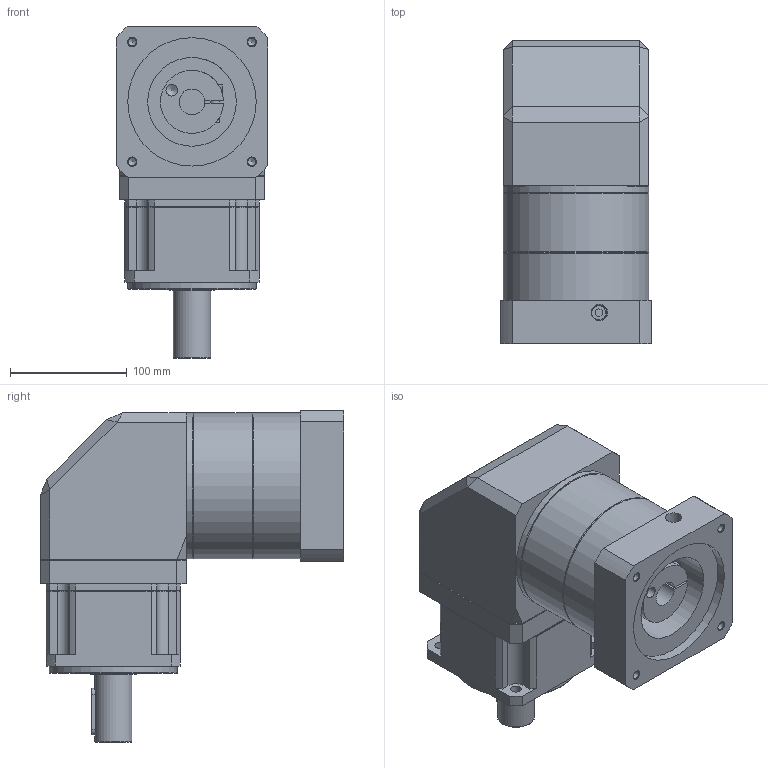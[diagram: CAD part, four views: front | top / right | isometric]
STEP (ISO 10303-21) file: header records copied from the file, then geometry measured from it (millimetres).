
FILE_DESCRIPTION(/* description */ ('STEP AP214'),/* implementation_level */ '2;1');
FILE_NAME(/* name */ 'C:\Users\m039\Desktop\精密行星标准图2019.5.20\行星外形图\B版精密行星外形图3D\GBR\GBR115-(3-100) 外形图-∅22x73.5-∅110x8-∅145xM8-□130.stp',/* time_stamp */ '2021-12-17T13:07:16+08:00',/* author */ ('m039'),/* organization */ ('Î¢ÈíÖÐ¹ú'),/* preprocessor_version */ 'ST-DEVELOPER v17.2',/* originating_system */ 'Autodesk Inventor 2019',/* authorisation */ '');
FILE_SCHEMA (('AUTOMOTIVE_DESIGN { 1 0 10303 214 3 1 1 }'));
Length unit declared in the file: millimetre
Products named in the file (1): GBR115
Bounding box: 130 x 260 x 284.5 mm (x, y, z)
Volume: 4456976.3 mm3; surface area: 241530.8 mm2
Topology: 1 solids, 1 shells, 242 faces, 600 edges, 374 vertices
Faces by surface type: plane 135, cylinder 60, cone 42, torus 5
Full cylindrical faces by diameter (mm): 6.8 x4, 8 x1, 9 x4, 10 x1, 10.2 x1, 13 x1, 14 x1, 22 x1, 32 x1, 39.5 x1, 40 x1, 76 x1, 110 x2, 125 x3
Entity records: 7296 total; most frequent: CARTESIAN_POINT 1367, DIRECTION 1287, ORIENTED_EDGE 1188, EDGE_CURVE 594, AXIS2_PLACEMENT_3D 472, VERTEX_POINT 374, LINE 343, VECTOR 343
